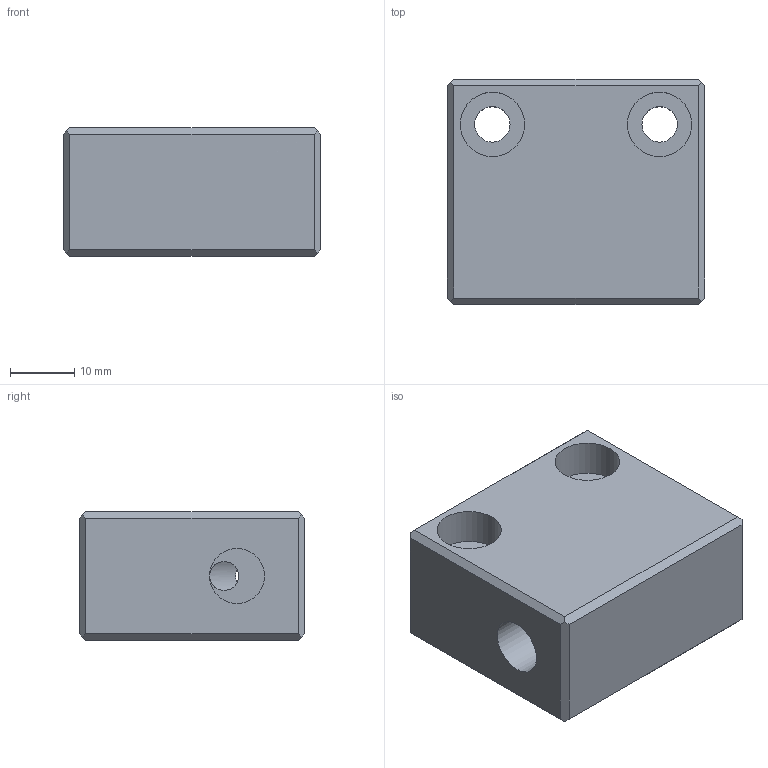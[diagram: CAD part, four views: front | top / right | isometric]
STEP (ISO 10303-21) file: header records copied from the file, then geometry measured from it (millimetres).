
FILE_DESCRIPTION( ( 'STEP AP203' ), '1' );
FILE_NAME( 'p:/temp/worker_77/temp/exporttempdir_2548_617_XAuE9/format_4/E40159.stp', '2022-02-07T10:56:10', ( 'License CC BY-ND 4.0' ), ( 'CADENAS' ), ' ', 'PARTsolutions', ' ' );
FILE_SCHEMA( ( 'CONFIG_CONTROL_DESIGN' ) );
Length unit declared in the file: millimetre
Products named in the file (1): _E40159
Bounding box: 40 x 35 x 20 mm (x, y, z)
Volume: 21636.9 mm3; surface area: 8085.4 mm2
Topology: 1 solids, 1 shells, 43 faces, 97 edges, 65 vertices
Faces by surface type: plane 29, cylinder 14
Full cylindrical faces by diameter (mm): 4.5 x2, 5.5 x2, 8.57 x2, 10 x4, 11.45 x1, 16 x1
Entity records: 1310 total; most frequent: CARTESIAN_POINT 310, DIRECTION 196, ORIENTED_EDGE 168, EDGE_CURVE 84, EDGE_LOOP 72, AXIS2_PLACEMENT_3D 70, VERTEX_POINT 64, LINE 56
